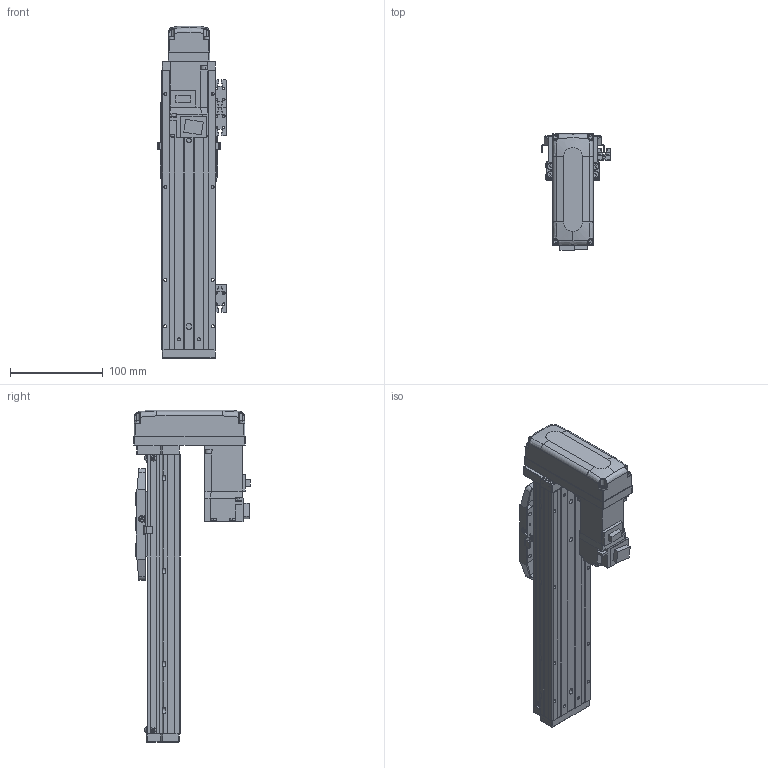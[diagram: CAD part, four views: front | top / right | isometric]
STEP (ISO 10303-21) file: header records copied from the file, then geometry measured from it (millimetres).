
FILE_DESCRIPTION (( 'STEP AP203' ), '1' );
FILE_NAME ('CTHA50-150-BM-M10-C4L.step', '2022-03-19T06:02:38', ( '微软用户' ), ( '微软中国' ), 'SwSTEP 2.0', 'SolidWorks 2020', '' );
FILE_SCHEMA (( 'CONFIG_CONTROL_DESIGN' ));
Length unit declared in the file: millimetre
Products named in the file (20): KTHA50-001_300; CTHA60-017; CTHA50-031; KTHA50-004; GBT 70.1-M4×12; GBT 70.3-M3℅6; KTHA50-005; CTHA60-016; CTHA50-015-2_CTHA60-015-2; GB¨uT 70.2-M3¡Á6_M3¡Á6; CTHA60-021; CTHA60-033; EE_SX911P_R; HG-KR13（三菱）; GBT 70.1-M3×15; GBT77-2000 M3×3; CTHA50-002; CTHA50-150-BM-M10-C4L; GBT 70.1-M3℅6; CTHA50-030
Assembly tree (60 placements, depth 2):
  CTHA50-150-BM-M10-C4L
    KTHA50-001_300
    KTHA50-004
    KTHA50-005
    GB¨uT 70.2-M3¡Á6_M3¡Á6  x10
    EE_SX911P_R  x3
    GBT77-2000 M3×3  x6
    GBT 70.1-M3℅6  x6
    CTHA60-017  x3
    GBT 70.1-M4×12  x10
    CTHA60-016  x2
    CTHA60-021  x2
    HG-KR13（三菱）
    CTHA50-002
    CTHA50-030  x2
    CTHA50-031
    GBT 70.3-M3℅6  x4
    CTHA50-015-2_CTHA60-015-2
    CTHA60-033
    GBT 70.1-M3×15  x4
Bounding box: 74.12 x 125.3 x 357 mm (x, y, z)
Volume: 872802.2 mm3; surface area: 229810.8 mm2
Topology: 62 solids, 62 shells, 2473 faces, 5855 edges, 3582 vertices
Faces by surface type: plane 1398, cylinder 570, cone 347, torus 108, bspline 26, sphere 24
Entity records: 41393 total; most frequent: CARTESIAN_POINT 7659, DIRECTION 6425, ORIENTED_EDGE 6218, EDGE_CURVE 3109, VECTOR 2169, LINE 2169, AXIS2_PLACEMENT_3D 2128, VERTEX_POINT 1956
